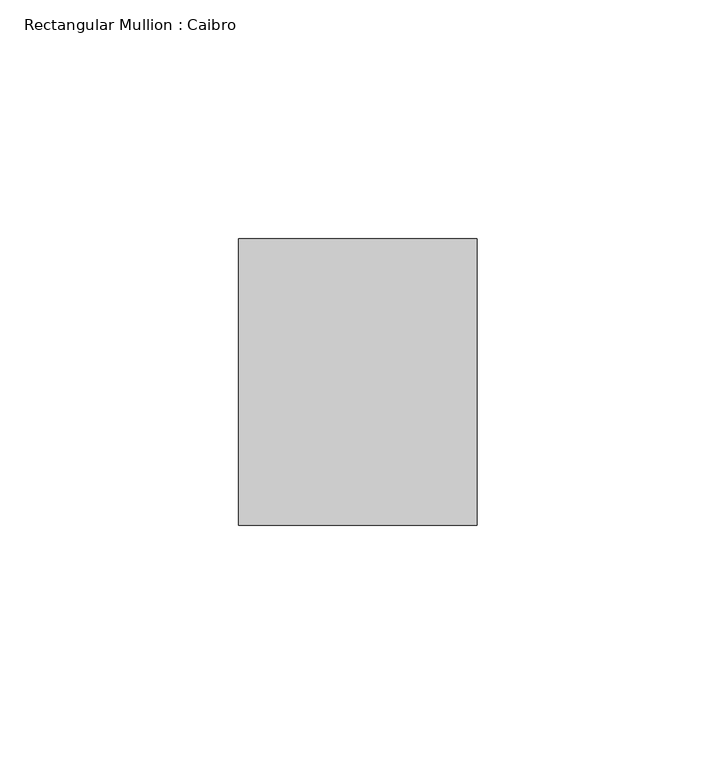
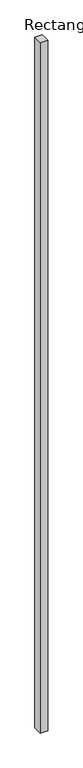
"""IFC4 building model written with IfcOpenShell, lengths in millimetres: member geometry, Rectangular Mullion : Caibro."""

from ifc_helpers import new_model, si_unit, frame, origin, place, context, project, spatial, polyline, outline, extrude, source, transform, mapped, element, save


def rectangular_mullion_caibro_b547574d(model_context):
    return source(origin(), model_context, "Body", "SweptSolid", [
        extrude(outline(polyline([(-50.0, -60.0), (-50.0, 0.0), (0.0, 0.0), (0.0, -60.0), (-50.0, -60.0)])), frame((0.0, 0.0, -4833.5469271), z_axis=(0.0, 0.0, 1.0), x_axis=(1.0, 0.0, 0.0)), (0.0, 0.0, 1.0), 4833.5469271),
    ])


if __name__ == "__main__":
    model = new_model("IFC4")
    model_context = context("Model", 3, world=origin())
    ifc_project = project(units=[si_unit("LENGTHUNIT", "METRE", prefix="MILLI")], contexts=[model_context])
    site = spatial("IfcSite", under=ifc_project)
    building = spatial("IfcBuilding", under=site)
    placement = place(None, origin())
    rectangular_mullion_caibro_shape = rectangular_mullion_caibro_b547574d(model_context)
    element("IfcMember", 1, ObjectType="Rectangular Mullion : Caibro", at=placement, inside=building, context=model_context, shape_type="MappedRepresentation", body=[
        mapped(rectangular_mullion_caibro_shape, transform((0.0, 0.0, 0.0), x_axis=(1.0, 0.0, 0.0), y_axis=(0.0, 1.0, 0.0), z_axis=(0.0, 0.0, 1.0))),
    ])
    save(model, "model.ifc")
